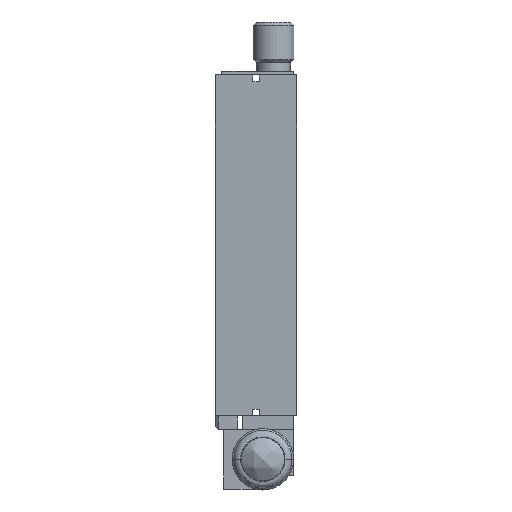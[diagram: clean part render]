
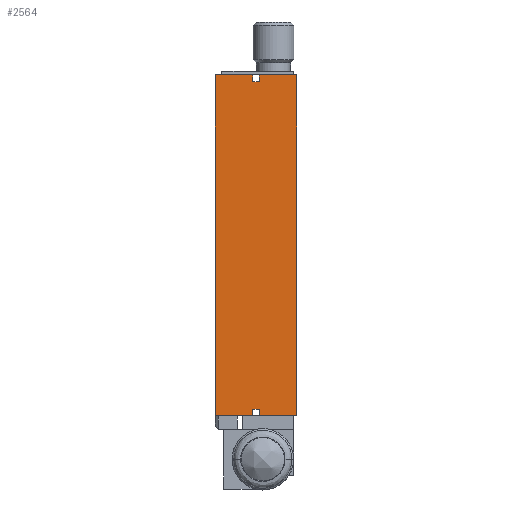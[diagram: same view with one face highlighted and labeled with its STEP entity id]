
A CAD part, left-side view. The second image highlights one B-rep face of the part: STEP entity #2564.
In plain terms, the highlighted planar face has unit normal (-1, 0, 0).
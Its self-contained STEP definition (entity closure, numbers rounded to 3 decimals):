
#1286 = VERTEX_POINT ( 'NONE', #31358 ) ;
#2060 = VERTEX_POINT ( 'NONE', #25047 ) ;
#2489 = VECTOR ( 'NONE', #9584, 1000. ) ;
#2542 = CARTESIAN_POINT ( 'NONE',  ( -50., 11., -50. ) ) ;
#2564 = ADVANCED_FACE ( 'NONE', ( #3340 ), #19131, .F. ) ;
#2872 = DIRECTION ( 'NONE',  ( 0., 1., 0. ) ) ;
#3239 = LINE ( 'NONE', #18134, #10053 ) ;
#3340 = FACE_OUTER_BOUND ( 'NONE', #4461, .T. ) ;
#3750 = LINE ( 'NONE', #23660, #15693 ) ;
#3799 = VERTEX_POINT ( 'NONE', #8443 ) ;
#4461 = EDGE_LOOP ( 'NONE', ( #17459, #11745, #30805, #19974, #13650, #28726, #18947, #24066, #9832, #13863, #6281, #18067 ) ) ;
#5169 = DIRECTION ( 'NONE',  ( 0., 0., 1. ) ) ;
#5366 = CARTESIAN_POINT ( 'NONE',  ( -50., 13., -50. ) ) ;
#5464 = CARTESIAN_POINT ( 'NONE',  ( -50., 0., -50. ) ) ;
#5479 = VERTEX_POINT ( 'NONE', #27629 ) ;
#6281 = ORIENTED_EDGE ( 'NONE', *, *, #17447, .F. ) ;
#6422 = EDGE_CURVE ( 'NONE', #32212, #26553, #26624, .T. ) ;
#6513 = CARTESIAN_POINT ( 'NONE',  ( -50., 24., -50. ) ) ;
#6628 = DIRECTION ( 'NONE',  ( 1., 0., 0. ) ) ;
#7316 = VECTOR ( 'NONE', #17886, 1000. ) ;
#7801 = VERTEX_POINT ( 'NONE', #5464 ) ;
#8443 = CARTESIAN_POINT ( 'NONE',  ( -50., 24., 50. ) ) ;
#9327 = CARTESIAN_POINT ( 'NONE',  ( -50., 24., 50. ) ) ;
#9584 = DIRECTION ( 'NONE',  ( 0., 0., 1. ) ) ;
#9832 = ORIENTED_EDGE ( 'NONE', *, *, #18630, .F. ) ;
#10053 = VECTOR ( 'NONE', #2872, 1000. ) ;
#10643 = VERTEX_POINT ( 'NONE', #28358 ) ;
#11185 = VECTOR ( 'NONE', #11865, 1000. ) ;
#11745 = ORIENTED_EDGE ( 'NONE', *, *, #24185, .F. ) ;
#11865 = DIRECTION ( 'NONE',  ( 0., 0., 1. ) ) ;
#12265 = VECTOR ( 'NONE', #25789, 1000. ) ;
#12311 = EDGE_CURVE ( 'NONE', #10643, #5479, #31477, .T. ) ;
#12834 = CARTESIAN_POINT ( 'NONE',  ( -50., 24., -50. ) ) ;
#13297 = VECTOR ( 'NONE', #27813, 1000. ) ;
#13586 = EDGE_CURVE ( 'NONE', #3799, #32212, #19458, .T. ) ;
#13650 = ORIENTED_EDGE ( 'NONE', *, *, #15719, .F. ) ;
#13863 = ORIENTED_EDGE ( 'NONE', *, *, #12311, .F. ) ;
#14080 = LINE ( 'NONE', #12834, #7316 ) ;
#14322 = EDGE_CURVE ( 'NONE', #2060, #14326, #19772, .T. ) ;
#14326 = VERTEX_POINT ( 'NONE', #24729 ) ;
#14487 = VERTEX_POINT ( 'NONE', #32402 ) ;
#15664 = EDGE_CURVE ( 'NONE', #7801, #1286, #21571, .T. ) ;
#15689 = VERTEX_POINT ( 'NONE', #2542 ) ;
#15693 = VECTOR ( 'NONE', #30639, 1000. ) ;
#15719 = EDGE_CURVE ( 'NONE', #27917, #14487, #3239, .T. ) ;
#16047 = CARTESIAN_POINT ( 'NONE',  ( -50., 11., -48. ) ) ;
#16434 = CARTESIAN_POINT ( 'NONE',  ( -50., 24., -50. ) ) ;
#16612 = LINE ( 'NONE', #20430, #22584 ) ;
#17047 = VECTOR ( 'NONE', #5169, 1000. ) ;
#17447 = EDGE_CURVE ( 'NONE', #26553, #10643, #16612, .T. ) ;
#17459 = ORIENTED_EDGE ( 'NONE', *, *, #13586, .F. ) ;
#17491 = VECTOR ( 'NONE', #30097, 1000. ) ;
#17886 = DIRECTION ( 'NONE',  ( 0., 1., 0. ) ) ;
#18067 = ORIENTED_EDGE ( 'NONE', *, *, #6422, .F. ) ;
#18134 = CARTESIAN_POINT ( 'NONE',  ( -50., 24., -48. ) ) ;
#18596 = EDGE_CURVE ( 'NONE', #7801, #15689, #14080, .T. ) ;
#18630 = EDGE_CURVE ( 'NONE', #5479, #1286, #3750, .T. ) ;
#18915 = VECTOR ( 'NONE', #19781, 1000. ) ;
#18947 = ORIENTED_EDGE ( 'NONE', *, *, #18596, .F. ) ;
#18963 = CARTESIAN_POINT ( 'NONE',  ( -50., 24., -50. ) ) ;
#19131 = PLANE ( 'NONE',  #26480 ) ;
#19458 = LINE ( 'NONE', #9327, #17491 ) ;
#19542 = CARTESIAN_POINT ( 'NONE',  ( -50., 11., -50. ) ) ;
#19772 = LINE ( 'NONE', #18963, #26944 ) ;
#19781 = DIRECTION ( 'NONE',  ( 0., 0., 1. ) ) ;
#19974 = ORIENTED_EDGE ( 'NONE', *, *, #30402, .F. ) ;
#20232 = LINE ( 'NONE', #20457, #17047 ) ;
#20430 = CARTESIAN_POINT ( 'NONE',  ( -50., 24., 48. ) ) ;
#20457 = CARTESIAN_POINT ( 'NONE',  ( -50., 11., -50. ) ) ;
#21571 = LINE ( 'NONE', #22570, #2489 ) ;
#22570 = CARTESIAN_POINT ( 'NONE',  ( -50., 0., 50. ) ) ;
#22584 = VECTOR ( 'NONE', #30638, 1000. ) ;
#22844 = EDGE_CURVE ( 'NONE', #15689, #27917, #20232, .T. ) ;
#22856 = LINE ( 'NONE', #32795, #13297 ) ;
#23660 = CARTESIAN_POINT ( 'NONE',  ( -50., 24., 50. ) ) ;
#24066 = ORIENTED_EDGE ( 'NONE', *, *, #15664, .T. ) ;
#24185 = EDGE_CURVE ( 'NONE', #14326, #3799, #26049, .T. ) ;
#24729 = CARTESIAN_POINT ( 'NONE',  ( -50., 24., -50. ) ) ;
#25047 = CARTESIAN_POINT ( 'NONE',  ( -50., 13., -50. ) ) ;
#25789 = DIRECTION ( 'NONE',  ( 0., 0., -1. ) ) ;
#26049 = LINE ( 'NONE', #6513, #18915 ) ;
#26480 = AXIS2_PLACEMENT_3D ( 'NONE', #16434, #6628, #32126 ) ;
#26553 = VERTEX_POINT ( 'NONE', #28977 ) ;
#26624 = LINE ( 'NONE', #5366, #12265 ) ;
#26944 = VECTOR ( 'NONE', #29695, 1000. ) ;
#27629 = CARTESIAN_POINT ( 'NONE',  ( -50., 11., 50. ) ) ;
#27813 = DIRECTION ( 'NONE',  ( 0., 0., -1. ) ) ;
#27915 = CARTESIAN_POINT ( 'NONE',  ( -50., 13., 50. ) ) ;
#27917 = VERTEX_POINT ( 'NONE', #16047 ) ;
#28358 = CARTESIAN_POINT ( 'NONE',  ( -50., 11., 48. ) ) ;
#28726 = ORIENTED_EDGE ( 'NONE', *, *, #22844, .F. ) ;
#28977 = CARTESIAN_POINT ( 'NONE',  ( -50., 13., 48. ) ) ;
#29695 = DIRECTION ( 'NONE',  ( 0., 1., 0. ) ) ;
#30097 = DIRECTION ( 'NONE',  ( 0., -1., 0. ) ) ;
#30402 = EDGE_CURVE ( 'NONE', #14487, #2060, #22856, .T. ) ;
#30638 = DIRECTION ( 'NONE',  ( 0., -1., 0. ) ) ;
#30639 = DIRECTION ( 'NONE',  ( 0., -1., 0. ) ) ;
#30805 = ORIENTED_EDGE ( 'NONE', *, *, #14322, .F. ) ;
#31358 = CARTESIAN_POINT ( 'NONE',  ( -50., 0., 50. ) ) ;
#31477 = LINE ( 'NONE', #19542, #11185 ) ;
#32126 = DIRECTION ( 'NONE',  ( 0., 0., -1. ) ) ;
#32212 = VERTEX_POINT ( 'NONE', #27915 ) ;
#32402 = CARTESIAN_POINT ( 'NONE',  ( -50., 13., -48. ) ) ;
#32795 = CARTESIAN_POINT ( 'NONE',  ( -50., 13., -50. ) ) ;
